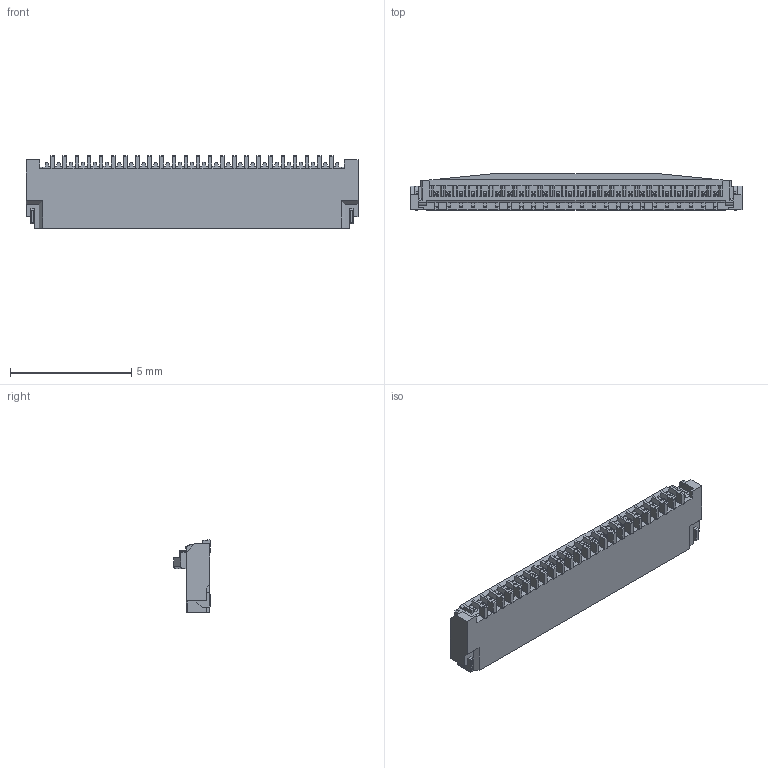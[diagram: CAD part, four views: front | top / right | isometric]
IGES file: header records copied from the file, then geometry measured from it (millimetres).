
Start section: SolidWorks IGES file using analytic representation for surfaces
Global section: file name: C:\3dwork\MINIFLEX5-BFN2-inomae\STEP-IGES\24P-IGES-STEP\20542-024E-01C ACT OPEN IGES R1 ALL.IGS; native system: SolidWorks 2011; preprocessor: SolidWorks 2011; author: kaihatsu-3dcad-1; date: 130320.173536; units: millimetre
Bounding box: 13.7 x 1.52 x 3 mm (x, y, z)
Surface area: 132 mm2 (no closed solid volume)
Topology: 0 solids, 0 shells, 819 faces, 5444 edges, 5442 vertices
Faces by surface type: bspline 613, revolution 206
